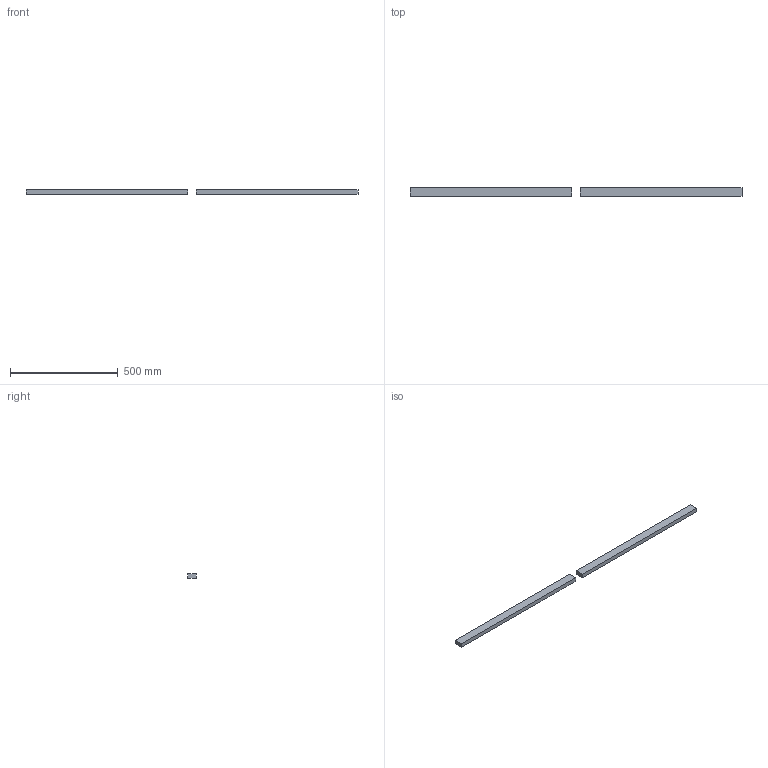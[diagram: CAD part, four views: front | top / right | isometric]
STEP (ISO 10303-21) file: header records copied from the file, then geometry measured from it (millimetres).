
FILE_DESCRIPTION(/* description */ (''),/* implementation_level */ '2;1');
FILE_NAME(/* name */ '1.frame-bottom#1.5#HFSB5-2040-750',/* time_stamp */ '2014-12-01T20:11:19+01:00',/* author */ (''),/* organization */ (''),/* preprocessor_version */ 'ST-DEVELOPER v14',/* originating_system */ '',/* authorisation */ '');
FILE_SCHEMA (('AUTOMOTIVE_DESIGN'));
Length unit declared in the file: millimetre
Products named in the file (1): Document
Bounding box: 1540 x 40 x 20 mm (x, y, z)
Volume: 1200000 mm3; surface area: 183200 mm2
Topology: 2 solids, 2 shells, 12 faces, 24 edges, 16 vertices
Faces by surface type: plane 12
Entity records: 571 total; most frequent: CARTESIAN_POINT 174, B_SPLINE_CURVE_WITH_KNOTS 72, ORIENTED_EDGE 48, PCURVE 48, DEFINITIONAL_REPRESENTATION 48, SURFACE_CURVE 24, EDGE_CURVE 24, VERTEX_POINT 16
